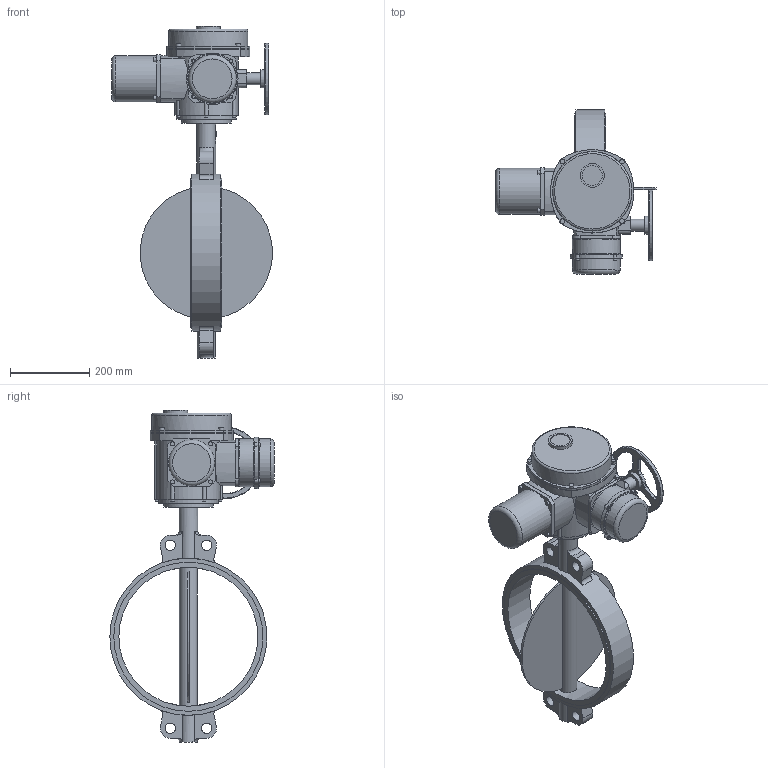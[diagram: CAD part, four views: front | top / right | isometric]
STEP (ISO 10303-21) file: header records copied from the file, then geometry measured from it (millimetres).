
FILE_DESCRIPTION(('STEP AP203'), '1');
FILE_NAME('青蜮铕 017W.Y_DN350_PN16_QT.Z 120', '', ('UNSPECIFIED'), ('UNSPECIFIED'), 'ASCON STEP Converter 1.6', 'ASCON Math Kernel', '');
FILE_SCHEMA(('CONFIG_CONTROL_DESIGN'));
Length unit declared in the file: millimetre
Bounding box: 404.07 x 413.8 x 836 mm (x, y, z)
Volume: 12933583.4 mm3; surface area: 942323.2 mm2
Topology: 1 solids, 1 shells, 337 faces, 812 edges, 502 vertices
Faces by surface type: cylinder 150, plane 112, torus 51, cone 16, bspline 8
Full cylindrical faces by diameter (mm): 8 x10, 8.376 x4, 10 x4, 10.106 x4, 12 x8, 12.386 x1, 26 x4, 30 x1, 45 x2, 47 x1, 50 x1, 60 x1, 116 x1, 120 x2, 125 x1, 150 x1, 180 x1, 200 x1, 350 x1, 375.6 x2, 395.6 x1
Entity records: 15385 total; most frequent: CARTESIAN_POINT 4946, DIRECTION 1737, ORIENTED_EDGE 1438, AXIS2_PLACEMENT_3D 747, EDGE_CURVE 719, VERTEX_POINT 493, EDGE_LOOP 467, CIRCLE 417
